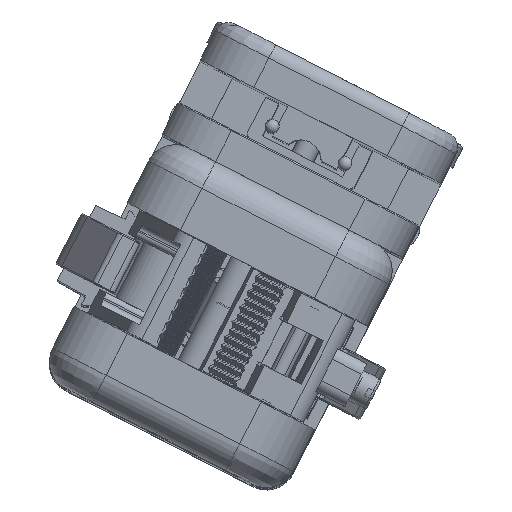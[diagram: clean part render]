
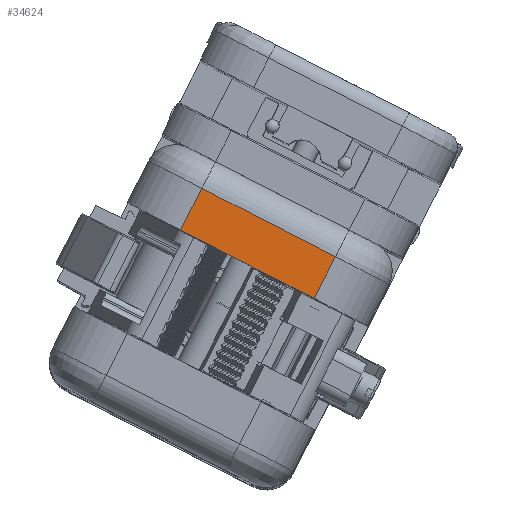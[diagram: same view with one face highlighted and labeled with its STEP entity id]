
A CAD part, top view. The second image highlights one B-rep face of the part: STEP entity #34624.
In plain terms, the highlighted planar face has unit normal (0, 0, 1).
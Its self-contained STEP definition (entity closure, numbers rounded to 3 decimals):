
#21417=PLANE('',#65158);
#23664=FACE_OUTER_BOUND('',#40608,.T.);
#26138=LINE('',#82992,#30402);
#26145=LINE('',#83141,#30409);
#26146=LINE('',#83143,#30410);
#26147=LINE('',#83145,#30411);
#30402=VECTOR('',#69978,1.);
#30409=VECTOR('',#70028,1.);
#30410=VECTOR('',#70031,1.);
#30411=VECTOR('',#70032,1.);
#34624=ADVANCED_FACE('',(#23664),#21417,.F.);
#40608=EDGE_LOOP('',(#44669,#44670,#44671,#44672));
#44669=ORIENTED_EDGE('',*,*,#59308,.F.);
#44670=ORIENTED_EDGE('',*,*,#59309,.T.);
#44671=ORIENTED_EDGE('',*,*,#59310,.F.);
#44672=ORIENTED_EDGE('',*,*,#59284,.F.);
#55720=VERTEX_POINT('',#82973);
#55723=VERTEX_POINT('',#82991);
#55733=VERTEX_POINT('',#83140);
#55734=VERTEX_POINT('',#83144);
#59284=EDGE_CURVE('',#55723,#55720,#26138,.T.);
#59308=EDGE_CURVE('',#55733,#55723,#26145,.T.);
#59309=EDGE_CURVE('',#55733,#55734,#26146,.T.);
#59310=EDGE_CURVE('',#55720,#55734,#26147,.T.);
#65158=AXIS2_PLACEMENT_3D('',#83146,#70033,#70034);
#69978=DIRECTION('',(0.89,-0.456,0.));
#70028=DIRECTION('',(0.456,0.89,0.));
#70031=DIRECTION('',(0.89,-0.456,0.));
#70032=DIRECTION('',(-0.456,-0.89,0.));
#70033=DIRECTION('',(0.,0.,-1.));
#70034=DIRECTION('',(-0.89,0.456,0.));
#82973=CARTESIAN_POINT('',(19.103,9.878,349.));
#82991=CARTESIAN_POINT('',(-3.149,21.274,349.));
#82992=CARTESIAN_POINT('',(7.977,15.576,349.));
#83140=CARTESIAN_POINT('',(-6.704,14.331,349.));
#83141=CARTESIAN_POINT('',(-0.87,25.724,349.));
#83143=CARTESIAN_POINT('',(4.421,8.634,349.));
#83144=CARTESIAN_POINT('',(15.547,2.936,349.));
#83145=CARTESIAN_POINT('',(21.382,14.329,349.));
#83146=CARTESIAN_POINT('',(30.283,9.771,349.));
